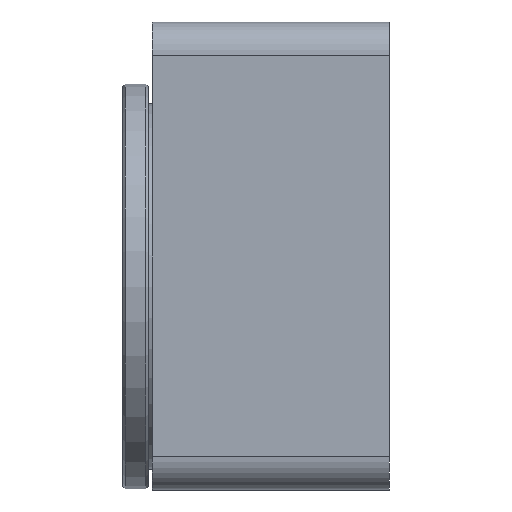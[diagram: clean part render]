
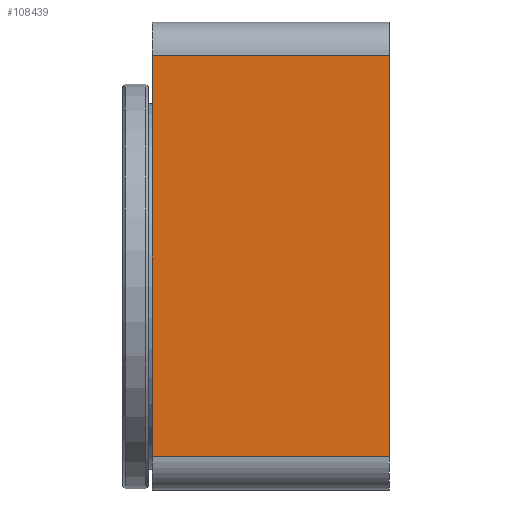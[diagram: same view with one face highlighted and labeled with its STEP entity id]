
A CAD part, left-side view. The second image highlights one B-rep face of the part: STEP entity #108439.
In plain terms, the highlighted planar face has unit normal (-1, 0, 0).
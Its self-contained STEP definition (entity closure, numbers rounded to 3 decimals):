
#634 = ORIENTED_EDGE ( 'NONE', *, *, #146013, .T. ) ;
#3385 = VECTOR ( 'NONE', #83270, 1000. ) ;
#4040 = VECTOR ( 'NONE', #124152, 1000. ) ;
#6634 = EDGE_CURVE ( 'NONE', #47028, #107613, #106205, .T. ) ;
#6639 = AXIS2_PLACEMENT_3D ( 'NONE', #112123, #89824, #21997 ) ;
#16459 = FACE_OUTER_BOUND ( 'NONE', #83638, .T. ) ;
#21997 = DIRECTION ( 'NONE',  ( 0., 0., -1. ) ) ;
#28072 = ORIENTED_EDGE ( 'NONE', *, *, #6634, .F. ) ;
#34195 = LINE ( 'NONE', #124903, #4040 ) ;
#39150 = EDGE_CURVE ( 'NONE', #92393, #47028, #34195, .T. ) ;
#42430 = CARTESIAN_POINT ( 'NONE',  ( -49.107, 8.255, -38.1 ) ) ;
#46016 = VECTOR ( 'NONE', #122466, 1000. ) ;
#47028 = VERTEX_POINT ( 'NONE', #67975 ) ;
#53643 = VECTOR ( 'NONE', #138476, 1000. ) ;
#67975 = CARTESIAN_POINT ( 'NONE',  ( -49.107, 8.255, 36.83 ) ) ;
#70583 = CARTESIAN_POINT ( 'NONE',  ( -49.107, -36.195, -44.45 ) ) ;
#80236 = VERTEX_POINT ( 'NONE', #144170 ) ;
#83270 = DIRECTION ( 'NONE',  ( 0., 1., 0. ) ) ;
#83638 = EDGE_LOOP ( 'NONE', ( #28072, #106114, #88340, #634 ) ) ;
#88340 = ORIENTED_EDGE ( 'NONE', *, *, #141073, .F. ) ;
#89824 = DIRECTION ( 'NONE',  ( 1., 0., 0. ) ) ;
#92393 = VERTEX_POINT ( 'NONE', #42430 ) ;
#106114 = ORIENTED_EDGE ( 'NONE', *, *, #39150, .F. ) ;
#106205 = LINE ( 'NONE', #122819, #46016 ) ;
#107613 = VERTEX_POINT ( 'NONE', #119868 ) ;
#108439 = ADVANCED_FACE ( 'NONE', ( #16459 ), #134528, .F. ) ;
#112123 = CARTESIAN_POINT ( 'NONE',  ( -49.107, 8.255, 43.18 ) ) ;
#117038 = CARTESIAN_POINT ( 'NONE',  ( -49.107, 8.255, -38.1 ) ) ;
#119868 = CARTESIAN_POINT ( 'NONE',  ( -49.107, -36.195, 36.83 ) ) ;
#120438 = LINE ( 'NONE', #117038, #3385 ) ;
#122466 = DIRECTION ( 'NONE',  ( 0., -1., 0. ) ) ;
#122819 = CARTESIAN_POINT ( 'NONE',  ( -49.107, 8.255, 36.83 ) ) ;
#124152 = DIRECTION ( 'NONE',  ( 0., 0., 1. ) ) ;
#124903 = CARTESIAN_POINT ( 'NONE',  ( -49.107, 8.255, 43.18 ) ) ;
#134528 = PLANE ( 'NONE',  #6639 ) ;
#138476 = DIRECTION ( 'NONE',  ( 0., 0., 1. ) ) ;
#141073 = EDGE_CURVE ( 'NONE', #80236, #92393, #120438, .T. ) ;
#143973 = LINE ( 'NONE', #70583, #53643 ) ;
#144170 = CARTESIAN_POINT ( 'NONE',  ( -49.107, -36.195, -38.1 ) ) ;
#146013 = EDGE_CURVE ( 'NONE', #80236, #107613, #143973, .T. ) ;
